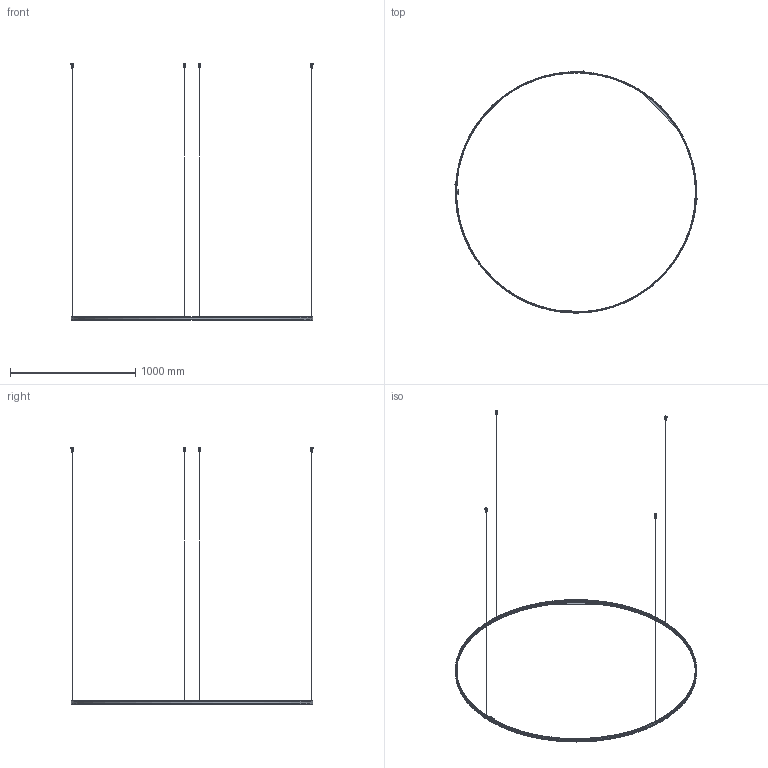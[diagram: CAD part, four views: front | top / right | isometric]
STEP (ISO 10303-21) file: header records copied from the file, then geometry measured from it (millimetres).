
FILE_DESCRIPTION(/* description */ (''),/* implementation_level */ '2;1');
FILE_NAME(/* name */ 'Zero Round M153__.200',/* time_stamp */ '2025-05-29T11:06:54+02:00',/* author */ (''),/* organization */ (''),/* preprocessor_version */ 'ST-DEVELOPER v16.5',/* originating_system */ '',/* authorisation */ '');
FILE_SCHEMA (('AUTOMOTIVE_DESIGN'));
Length unit declared in the file: millimetre
Products named in the file (12): Document; Zero Round M153__.200; 1800.0017001.00 (dispositivo sospensione meccanica singola M79D)_Volu
me; 5200.0002000.00 (dispositivo regolazione fune OTTONE nichelato con in
nesto maschio M10 L 14mm)_5200.0002000.00; 3300.0298000.00 (manicotto per sospensione singola ALL D 20mm H 32mm 
con foro M10x1)_3302.0298000.00; 2200.0323000.00 (corpo Zero Round D 200 sospensione con cablaggio 24V
)_Volume per disegno; 3100.0073000.00 (schermo estruso Giplast 09PE79 PC 19x3,8mm per curva
 D int. 1912mm)_3101.0073360.98; 5402.0001000.00 (fune ACC 19 fili D 1,2mm con cilindro terminale 3x3m
m)_5402.0001200.00; 5205.0004007.00 (nipplo D 10mm sp 2 gambo H 7mm M8x1 PC trasparente S
teab 5475-3-07-011)_5205.0004007.00; 3200.0200002.00 (copertura giunzione con foro M8 ACC 60,2x18,7mm H 23
mm sp 1)_3209.0200002.00; 5401.0016000.00 (molla in nastro sagomata ACC INOX 5x31x5mm sp 0,4)_5
401.0016000.00; 3300.0322000.00 (profilo curvo Zero Round sospensione ALL 7,7x30mm D 
est. 1930mm)_3306.0322360.00
Assembly tree (17 placements, depth 4):
  Document
    Zero Round M153__.200
      1800.0017001.00 (dispositivo sospensione meccanica singola M79D)_Volu
me  x4
        5200.0002000.00 (dispositivo regolazione fune OTTONE nichelato con in
nesto maschio M10 L 14mm)_5200.0002000.00
        3300.0298000.00 (manicotto per sospensione singola ALL D 20mm H 32mm 
con foro M10x1)_3302.0298000.00
      2200.0323000.00 (corpo Zero Round D 200 sospensione con cablaggio 24V
)_Volume per disegno
        3100.0073000.00 (schermo estruso Giplast 09PE79 PC 19x3,8mm per curva
 D int. 1912mm)_3101.0073360.98
        5402.0001000.00 (fune ACC 19 fili D 1,2mm con cilindro terminale 3x3m
m)_5402.0001200.00  x4
        5205.0004007.00 (nipplo D 10mm sp 2 gambo H 7mm M8x1 PC trasparente S
teab 5475-3-07-011)_5205.0004007.00
        3200.0200002.00 (copertura giunzione con foro M8 ACC 60,2x18,7mm H 23
mm sp 1)_3209.0200002.00
        5401.0016000.00 (molla in nastro sagomata ACC INOX 5x31x5mm sp 0,4)_5
401.0016000.00
        3300.0322000.00 (profilo curvo Zero Round sospensione ALL 7,7x30mm D 
est. 1930mm)_3306.0322360.00
Bounding box: 1935.86 x 1935.86 x 2055.45 mm (x, y, z)
Volume: 1135974.8 mm3; surface area: 871447.5 mm2
Topology: 25 solids, 25 shells, 719 faces, 1753 edges, 1089 vertices
Faces by surface type: bspline 556, plane 163
Entity records: 25171 total; most frequent: CARTESIAN_POINT 18823, ORIENTED_EDGE 2114, EDGE_CURVE 1057, VERTEX_POINT 645, B_SPLINE_CURVE_WITH_KNOTS 481, EDGE_LOOP 446, ADVANCED_FACE 428, FACE_OUTER_BOUND 428
